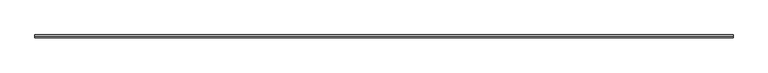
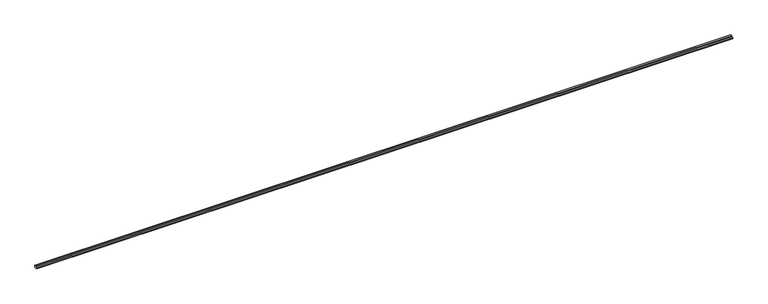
"""IFC4 building model written with IfcOpenShell, lengths in millimetres: railing geometry, Bordstein."""

from ifc_helpers import new_model, si_unit, frame, origin, place, context, project, spatial, polyline, outline, extrude, source, transform, mapped, element, save


def railing_48c5bdfc(model_context):
    return source(origin(), model_context, "Body", "SweptSolid", [
        extrude(outline(polyline([(-27480.6172052, -360.0), (-27580.6172052, -360.0), (-27580.6172052, -280.0), (-27480.6172052, -280.0), (-27480.6172052, -200.0), (-27380.6172052, -200.0), (-27380.6172052, -360.0), (-27480.6172052, -360.0)])), frame((-18727.7537228, 0.0, 0.0), z_axis=(1.0, 0.0, 0.0), x_axis=(0.0, 1.0, 0.0)), (0.0, 0.0, 1.0), 49019.0545778),
    ])


if __name__ == "__main__":
    model = new_model("IFC4")
    model_context = context("Model", 3, world=origin())
    ifc_project = project(units=[si_unit("LENGTHUNIT", "METRE", prefix="MILLI")], contexts=[model_context])
    site = spatial("IfcSite", under=ifc_project)
    building = spatial("IfcBuilding", under=site)
    placement = place(None, origin())
    railing_shape = railing_48c5bdfc(model_context)
    element("IfcRailing", 1, ObjectType="Bordstein", at=placement, inside=building, context=model_context, shape_type="MappedRepresentation", body=[
        mapped(railing_shape, transform((0.0, 0.0, 0.0), x_axis=(1.0, 0.0, 0.0), y_axis=(0.0, 1.0, 0.0), z_axis=(0.0, 0.0, 1.0))),
    ])
    save(model, "model.ifc")
